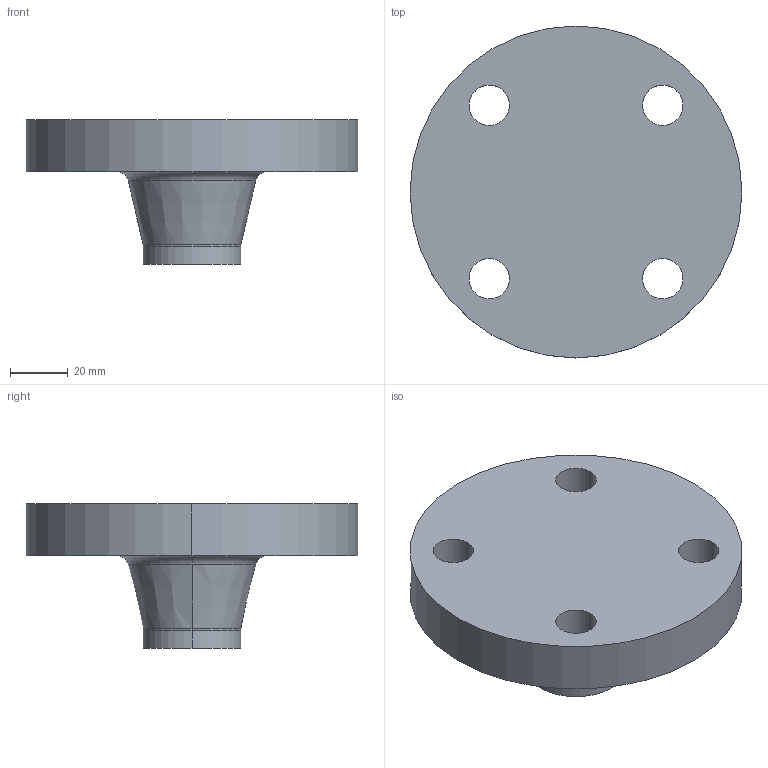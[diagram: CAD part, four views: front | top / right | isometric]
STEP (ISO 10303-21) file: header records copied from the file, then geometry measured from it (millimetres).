
FILE_DESCRIPTION (( 'STEP AP214' ), '1' );
FILE_NAME ('PN40 DN25 Type 21(ii) - Type A Face.STEP', '2018-12-29T20:16:27', ( '' ), ( '' ), 'SwSTEP 2.0', 'SolidWorks 2019', '' );
FILE_SCHEMA (( 'AUTOMOTIVE_DESIGN' ));
Length unit declared in the file: millimetre
Products named in the file (1): PN40 DN25 Type 21(ii) - Type A Face
Bounding box: 115 x 115 x 50 mm (x, y, z)
Volume: 213749.7 mm3; surface area: 32284.4 mm2
Topology: 1 solids, 1 shells, 21 faces, 48 edges, 30 vertices
Faces by surface type: cylinder 12, torus 4, plane 3, cone 2
Entity records: 658 total; most frequent: DIRECTION 126, CARTESIAN_POINT 100, ORIENTED_EDGE 96, AXIS2_PLACEMENT_3D 56, EDGE_CURVE 48, CIRCLE 34, EDGE_LOOP 30, VERTEX_POINT 30
